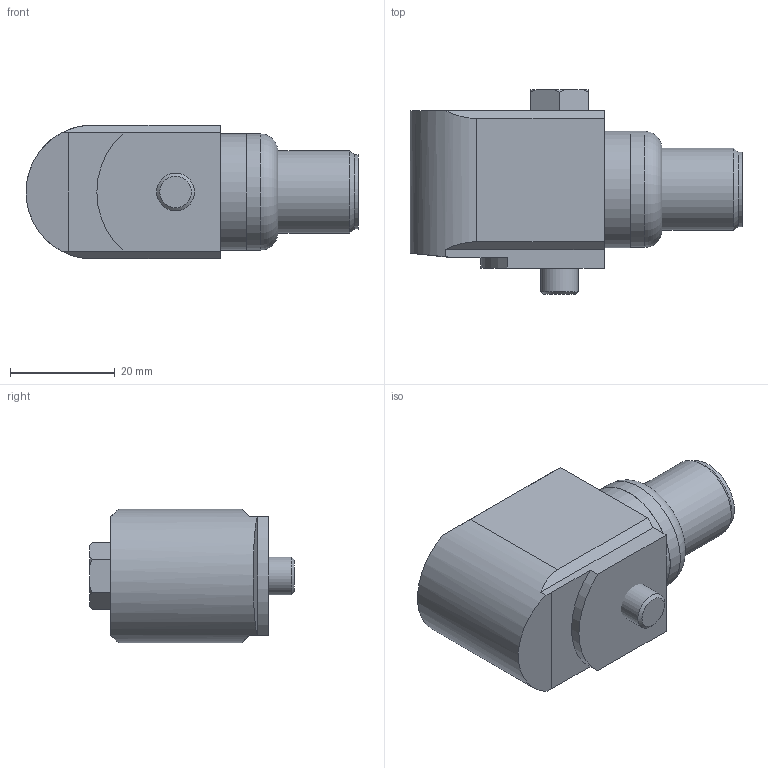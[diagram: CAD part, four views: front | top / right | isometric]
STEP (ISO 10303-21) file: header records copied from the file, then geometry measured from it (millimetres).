
FILE_DESCRIPTION(/* description */ (''),/* implementation_level */ '2;1');
FILE_NAME(/* name */ 'Z:\Engineering\Drawings\3D Library\Assemblies\Website\Premium Side\HS-150 Side 2 Pin MS\HS-150SXXX5006.stp',/* time_stamp */ '2023-03-12T13:07:56+00:00',/* author */ ('Ricardo.Peneda'),/* organization */ (''),/* preprocessor_version */ 'ST-DEVELOPER v18.1',/* originating_system */ 'Autodesk Inventor 2021',/* authorisation */ '');
FILE_SCHEMA (('AUTOMOTIVE_DESIGN { 1 0 10303 214 3 1 1 }'));
Length unit declared in the file: inch
Products named in the file (1): HS-150SXXX5006_Shrinkwrap_1
Bounding box: 63.27 x 39 x 25.5 mm (x, y, z)
Volume: 26955.2 mm3; surface area: 10984.7 mm2
Topology: 4 solids, 4 shells, 63 faces, 157 edges, 112 vertices
Faces by surface type: plane 35, cylinder 17, cone 10, torus 1
Full cylindrical faces by diameter (mm): 4.5 x1, 5.359 x1, 7.2 x1, 10 x1, 11.37 x1, 13 x1, 14.28 x1, 14.95 x1, 15.34 x1, 15.35 x1, 15.7 x1, 19 x1, 20 x1, 22.2 x2
Entity records: 2048 total; most frequent: CARTESIAN_POINT 357, DIRECTION 350, ORIENTED_EDGE 314, EDGE_CURVE 157, AXIS2_PLACEMENT_3D 141, VERTEX_POINT 112, EDGE_LOOP 75, CIRCLE 72
